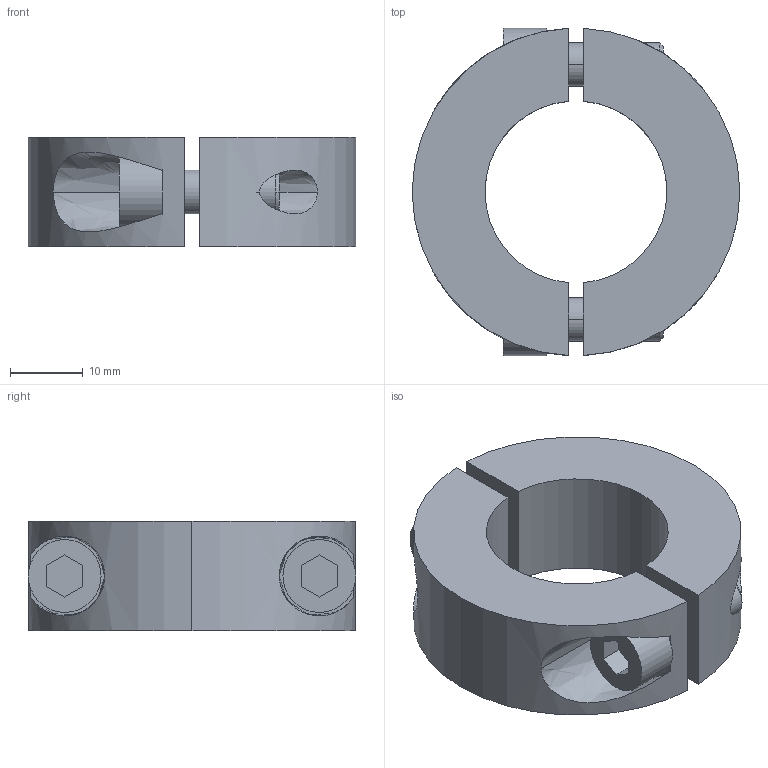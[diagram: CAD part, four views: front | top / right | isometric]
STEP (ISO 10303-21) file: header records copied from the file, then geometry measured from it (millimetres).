
FILE_DESCRIPTION (( 'STEP AP214' ), '1' );
FILE_NAME ('bague d''arret D25.STEP', '2017-04-06T07:50:35', ( '' ), ( '' ), 'SwSTEP 2.0', 'SolidWorks 2016', '' );
FILE_SCHEMA (( 'AUTOMOTIVE_DESIGN' ));
Length unit declared in the file: millimetre
Products named in the file (5): f2-320-25_03; f2-320-25_01; f2-320-25_02; f2-320-25_04; bague d''arret D25
Assembly tree (4 placements, depth 2):
  bague d''arret D25
    f2-320-25_01
    f2-320-25_02
    f2-320-25_03
    f2-320-25_04
Bounding box: 45 x 45 x 15 mm (x, y, z)
Volume: 14934.2 mm3; surface area: 8056.7 mm2
Topology: 4 solids, 4 shells, 58 faces, 132 edges, 88 vertices
Faces by surface type: plane 30, bspline 17, cylinder 11
Entity records: 2685 total; most frequent: CARTESIAN_POINT 665, DIRECTION 270, ORIENTED_EDGE 264, EDGE_CURVE 132, AXIS2_PLACEMENT_3D 97, VERTEX_POINT 88, LINE 76, VECTOR 76
